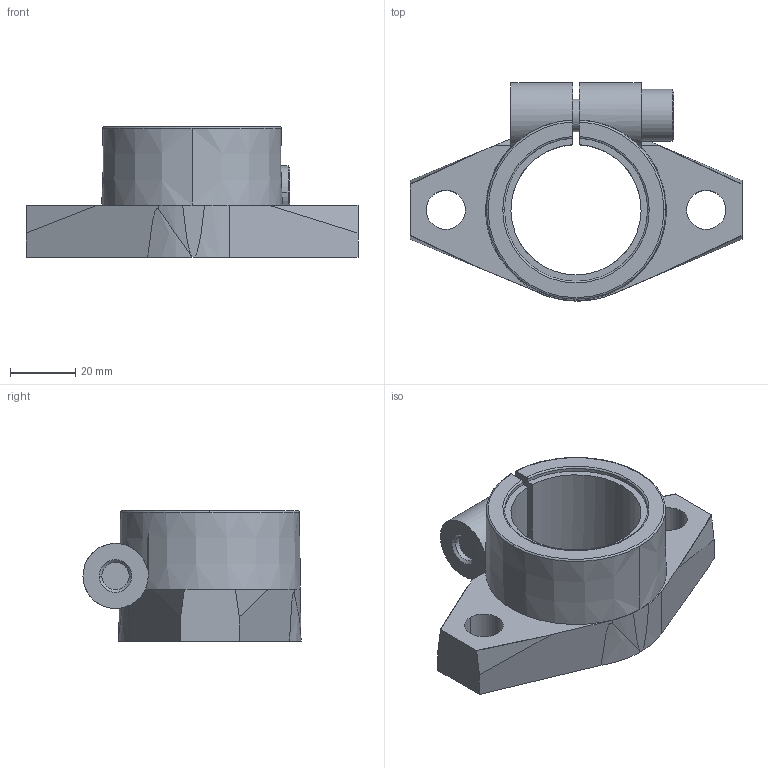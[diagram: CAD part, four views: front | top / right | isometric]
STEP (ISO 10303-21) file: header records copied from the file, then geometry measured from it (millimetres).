
FILE_DESCRIPTION (( 'STEP AP214' ), '1' );
FILE_NAME ('2.7127 Akselin päätykiinnike SHF40.STEP', '2024-06-06T06:10:05', ( '' ), ( '' ), 'SwSTEP 2.0', 'SolidWorks 2024', '' );
FILE_SCHEMA (( 'AUTOMOTIVE_DESIGN' ));
Length unit declared in the file: millimetre
Products named in the file (1): 2.7127 Akselin päätykiinnike SHF40
Bounding box: 102 x 67 x 40 mm (x, y, z)
Volume: 76889 mm3; surface area: 21960.1 mm2
Topology: 1 solids, 1 shells, 83 faces, 220 edges, 142 vertices
Faces by surface type: plane 38, cylinder 28, torus 9, cone 8
Entity records: 2845 total; most frequent: CARTESIAN_POINT 762, ORIENTED_EDGE 440, DIRECTION 431, EDGE_CURVE 220, AXIS2_PLACEMENT_3D 161, VERTEX_POINT 142, VECTOR 109, LINE 109
